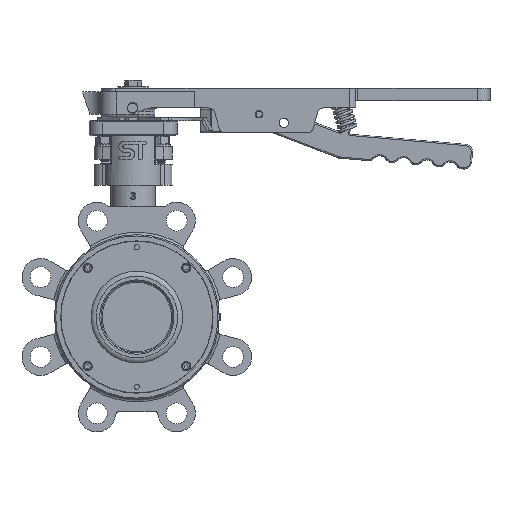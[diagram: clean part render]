
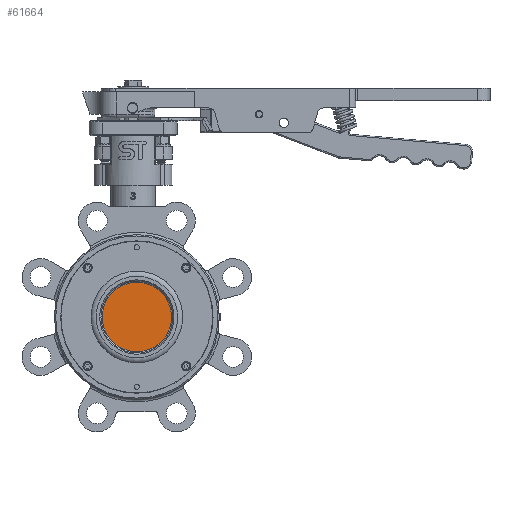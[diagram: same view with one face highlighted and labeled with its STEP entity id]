
A CAD part, front view. The second image highlights one B-rep face of the part: STEP entity #61664.
In plain terms, the highlighted planar face has unit normal (0, -1, 0).
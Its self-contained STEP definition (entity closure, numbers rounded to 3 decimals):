
#61664 = ADVANCED_FACE('',(#61665),#61678,.F.);
#61665 = FACE_BOUND('',#61666,.T.);
#61666 = EDGE_LOOP('',(#61667));
#61667 = ORIENTED_EDGE('',*,*,#61668,.F.);
#61668 = EDGE_CURVE('',#61669,#61669,#61671,.T.);
#61669 = VERTEX_POINT('',#61670);
#61670 = CARTESIAN_POINT('',(28.,-21.,0.));
#61671 = SURFACE_CURVE('',#61672,(#61677,#61689),.PCURVE_S1.);
#61672 = CIRCLE('',#61673,28.);
#61673 = AXIS2_PLACEMENT_3D('',#61674,#61675,#61676);
#61674 = CARTESIAN_POINT('',(0.,-21.,
    0.));
#61675 = DIRECTION('',(0.,1.,0.));
#61676 = DIRECTION('',(1.,0.,0.));
#61677 = PCURVE('',#61678,#61683);
#61678 = PLANE('',#61679);
#61679 = AXIS2_PLACEMENT_3D('',#61680,#61681,#61682);
#61680 = CARTESIAN_POINT('',(0.,-21.,
    0.));
#61681 = DIRECTION('',(0.,1.,0.));
#61682 = DIRECTION('',(1.,0.,0.));
#61683 = DEFINITIONAL_REPRESENTATION('',(#61684),#61688);
#61684 = CIRCLE('',#61685,28.);
#61685 = AXIS2_PLACEMENT_2D('',#61686,#61687);
#61686 = CARTESIAN_POINT('',(0.,0.));
#61687 = DIRECTION('',(1.,0.));
#61688 = ( GEOMETRIC_REPRESENTATION_CONTEXT(2) 
PARAMETRIC_REPRESENTATION_CONTEXT() REPRESENTATION_CONTEXT('2D SPACE',''
  ) );
#61689 = PCURVE('',#61690,#61695);
#61690 = TOROIDAL_SURFACE('',#61691,28.,1.);
#61691 = AXIS2_PLACEMENT_3D('',#61692,#61693,#61694);
#61692 = CARTESIAN_POINT('',(0.,-22.,0.
    ));
#61693 = DIRECTION('',(0.,1.,0.));
#61694 = DIRECTION('',(1.,0.,0.));
#61695 = DEFINITIONAL_REPRESENTATION('',(#61696),#61700);
#61696 = LINE('',#61697,#61698);
#61697 = CARTESIAN_POINT('',(0.,7.854));
#61698 = VECTOR('',#61699,1.);
#61699 = DIRECTION('',(1.,0.));
#61700 = ( GEOMETRIC_REPRESENTATION_CONTEXT(2) 
PARAMETRIC_REPRESENTATION_CONTEXT() REPRESENTATION_CONTEXT('2D SPACE',''
  ) );
